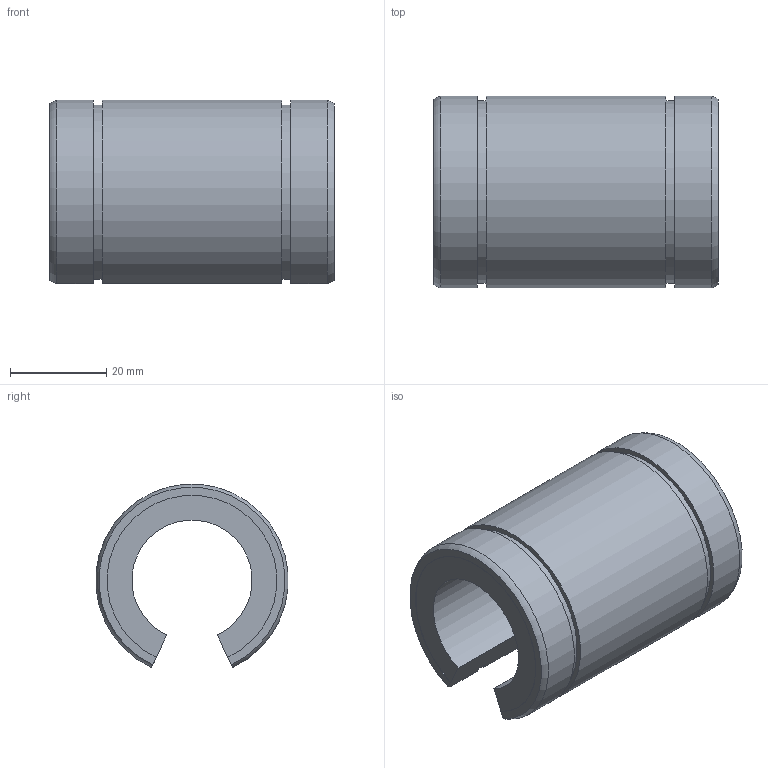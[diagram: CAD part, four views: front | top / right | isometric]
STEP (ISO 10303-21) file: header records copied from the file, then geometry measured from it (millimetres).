
FILE_DESCRIPTION((''),'2;1');
FILE_NAME('D:\製品 (図面)\カタログ用3D\リニアベアリング関連\STEP形式\L-OP\L25B-OP.stp','2010-06-04T09:34:00',('Tsuchiya'),(''),'Autodesk Inventor 10','Autodesk Inventor 10','');
FILE_SCHEMA(('AUTOMOTIVE_DESIGN { 1 0 10303 214 1 1 1 1 }'));
Length unit declared in the file: millimetre
Products named in the file (1): L25B-OP
Bounding box: 59 x 39.85 x 38.07 mm (x, y, z)
Volume: 38377.2 mm3; surface area: 12871.8 mm2
Topology: 1 solids, 1 shells, 20 faces, 54 edges, 36 vertices
Faces by surface type: plane 10, cylinder 8, torus 2
Entity records: 693 total; most frequent: CARTESIAN_POINT 153, DIRECTION 110, ORIENTED_EDGE 108, EDGE_CURVE 54, AXIS2_PLACEMENT_3D 39, VERTEX_POINT 36, VECTOR 32, LINE 32
